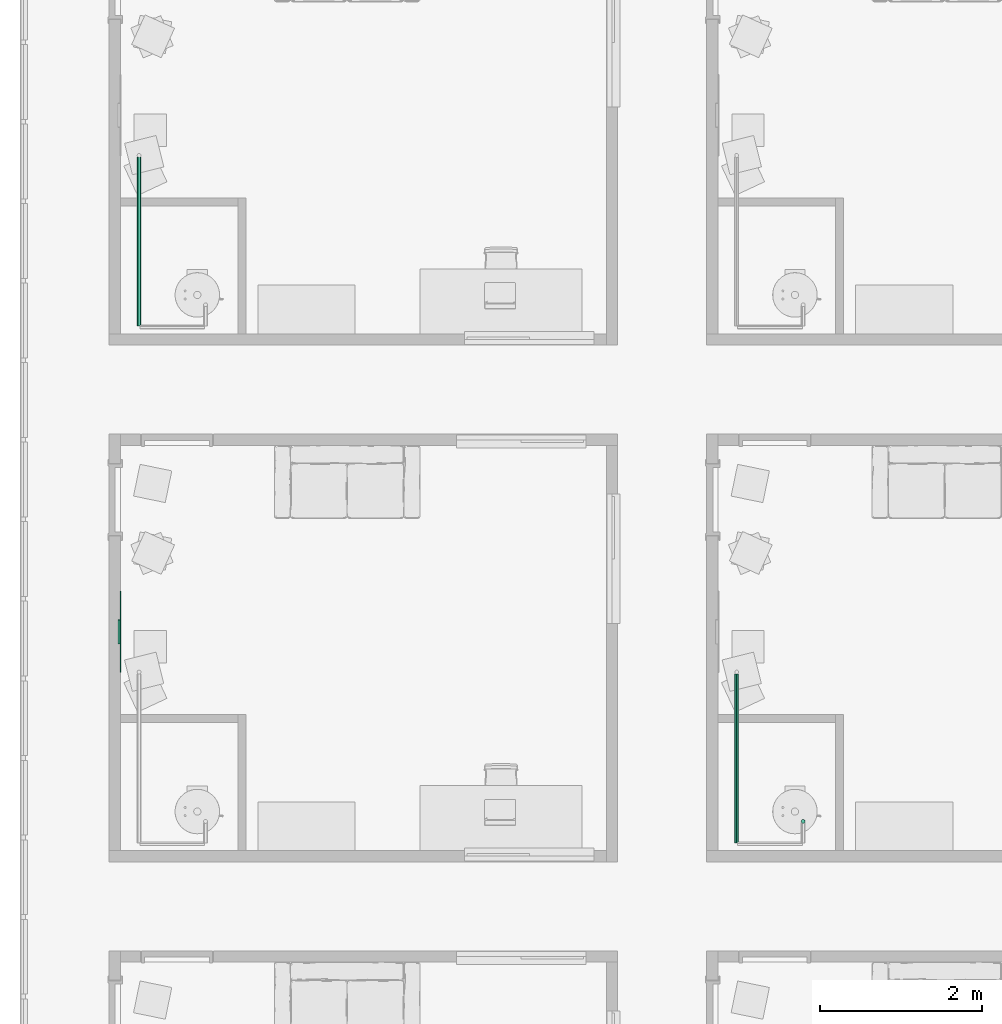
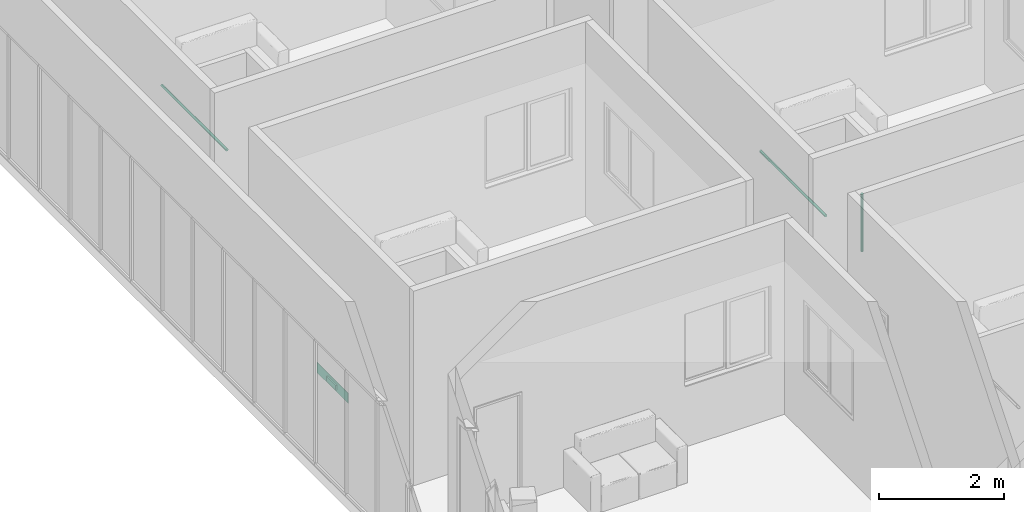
# One storey, part 15 of 69: 3 pipe segments, 1 air terminal.
"""IFC4 building model written with IfcOpenShell, lengths in centimetres."""

from ifc_helpers import new_model, entity, si_unit, converted_unit, derived_unit, direction, frame, origin, place, context, subcontext, project, spatial, arc, indexed_curve, outline, extrude, source, transform, mapped, material, constituent, constituent_set, type_object, type_shapes, element, save


model = new_model("IFC4")

# Units and contexts
model_context = context("Model", 3, precision=0.001, world=origin(), true_north=direction((6.123233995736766e-17, 1.0)))
body_context = subcontext(model_context, "Body", "Model", "MODEL_VIEW")
ifc_project = project(units=[si_unit("LENGTHUNIT", "METRE", prefix="CENTI"), si_unit("AREAUNIT", "SQUARE_METRE"), si_unit("VOLUMEUNIT", "CUBIC_METRE"), derived_unit("THERMALTRANSMITTANCEUNIT", [(si_unit("MASSUNIT", "GRAM", prefix="KILO"), 1), (si_unit("THERMODYNAMICTEMPERATUREUNIT", "KELVIN"), -1), (si_unit("TIMEUNIT", "SECOND"), -3)]), converted_unit("PLANEANGLEUNIT", "DEGREE", entity("IfcPlaneAngleMeasure", 0.017453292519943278), si_unit("PLANEANGLEUNIT", "RADIAN"), dimensions=[0, 0, 0, 0, 0, 0, 0]), derived_unit("MASSDENSITYUNIT", [(si_unit("MASSUNIT", "GRAM", prefix="KILO"), 1), (si_unit("LENGTHUNIT", "METRE"), -3)]), derived_unit("VAPORPERMEABILITYUNIT", [(si_unit("LENGTHUNIT", "METRE"), -1), (si_unit("TIMEUNIT", "SECOND"), 1)]), derived_unit("USERDEFINED", [(si_unit("MASSUNIT", "GRAM", prefix="KILO"), 1), (si_unit("TIMEUNIT", "SECOND"), -3), (si_unit("LENGTHUNIT", "METRE"), 3), (si_unit("ELECTRICCURRENTUNIT", "AMPERE"), -2)]), derived_unit("SPECIFICHEATCAPACITYUNIT", [(si_unit("THERMODYNAMICTEMPERATUREUNIT", "KELVIN"), -1), (si_unit("LENGTHUNIT", "METRE"), 2), (si_unit("TIMEUNIT", "SECOND"), -2)]), derived_unit("THERMALCONDUCTANCEUNIT", [(si_unit("MASSUNIT", "GRAM", prefix="KILO"), 1), (si_unit("THERMODYNAMICTEMPERATUREUNIT", "KELVIN"), -1), (si_unit("TIMEUNIT", "SECOND"), -3), (si_unit("LENGTHUNIT", "METRE"), 1)]), si_unit("PRESSUREUNIT", "PASCAL"), derived_unit("MODULUSOFELASTICITYUNIT", [(si_unit("MASSUNIT", "GRAM", prefix="KILO"), 1), (si_unit("LENGTHUNIT", "METRE"), -1), (si_unit("TIMEUNIT", "SECOND"), -2)]), derived_unit("THERMALEXPANSIONCOEFFICIENTUNIT", [(si_unit("THERMODYNAMICTEMPERATUREUNIT", "KELVIN"), -1)])], contexts=[model_context])

# Site, building, storey, space
site_placement = place(None, origin())
site = spatial("IfcSite", under=ifc_project, at=site_placement, Name="Default", CompositionType="ELEMENT")
building_placement = place(site_placement, origin())
building = spatial("IfcBuilding", under=site, at=building_placement, Name="IDS Escape Game Building", CompositionType="ELEMENT")
storey_placement = place(building_placement, origin())
storey = spatial("IfcBuildingStorey", under=building, at=storey_placement, Name="00_Ground Floor", CompositionType="ELEMENT", Elevation=0.0)
space_placement = place(storey_placement, origin())
space = spatial("IfcSpace", under=storey, at=space_placement, Name="8", CompositionType="ELEMENT", PredefinedType="NOTDEFINED")

# Air terminal
ifc_material_1 = material(Name="TB_LVC_referentievlak_00_gen_BERSnl", Category="BE Default")
ifc_constituent_1 = constituent(ifc_material_1, Name="TB_LVC_referentievlak_00_gen_BERSnl", Category="BE Default", fraction=0.00014157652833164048)
ifc_material_2 = material(Name="ARC_FME.h2_staal_00_gen_BERSnl", Category="h - metaal")
ifc_constituent_2 = constituent(ifc_material_2, Name="ARC_FME.h2_staal_00_gen_BERSnl", Category="h - metaal", fraction=0.9998584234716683)
ifc_constituent_set_1 = constituent_set(constituents=[ifc_constituent_1, ifc_constituent_2])
ifc_constituent_3 = constituent(ifc_material_1, Name="BE Referentievlak", Category="BE Default", fraction=0.00014157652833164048)
ifc_constituent_4 = constituent(ifc_material_2, Name="Terminals", Category="h - metaal", fraction=0.9998584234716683)
ifc_constituent_set_2 = constituent_set(constituents=[ifc_constituent_3, ifc_constituent_4])
air_terminal_type = type_object("IfcAirTerminalType", Name="TB_57_AIR_FB_aanzuigrooster - 1 rechthoekige aansluiting - calculated flow_gen_BERSnl:Air Terminal - Exhaust", PredefinedType="GRILLE", material=ifc_constituent_set_2)
shared_shape = source(origin(), body_context, "Body", "SweptSolid", [
    extrude(outline(indexed_curve([(-0.5, -2.0290176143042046e-15), (6.8507733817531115e-16, -0.5000000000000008), (0.5, 2.0290176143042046e-15), (-5.361679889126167e-16, 0.49999999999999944)], segments=[arc(1, 2, 3), arc(3, 4, 1)], self_intersect=False)), frame((0.0, 0.0, 0.0), z_axis=(1.7453292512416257e-05, 0.0, 1.0), x_axis=(0.0, 1.0, 0.0)), (0.0, 0.0, 1.0), 0.09999999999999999),
    extrude(outline(indexed_curve([(-14.900000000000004, -4.9), (14.900000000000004, -4.9), (14.900000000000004, 4.9), (-14.900000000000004, 4.9), (-14.900000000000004, -4.9)], self_intersect=False)), frame((-4.886921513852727e-05, 0.0, -2.7999999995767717)), (0.0, 0.0, 1.0), 2.7999999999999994),
    extrude(outline(indexed_curve([(-50.0, -10.0), (50.0, -10.0), (50.0, 10.0), (-50.0, 10.0), (-50.0, -10.0)], self_intersect=False)), frame((0.0, 0.0, 0.0), z_axis=(0.0, 0.0, 1.0), x_axis=(-1.0, 0.0, 0.0)), (0.0, 0.0, 1.0), 0.6999999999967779),
])
type_shapes(air_terminal_type, [shared_shape])
air_terminal_placement = place(space_placement, frame((7.0, 921.0, 24.0), z_axis=(1.0, 0.0, 0.0), x_axis=(0.0, 1.0, 0.0)))
element("IfcAirTerminal", 1, at=air_terminal_placement, inside=space, type_object=air_terminal_type, material=ifc_constituent_set_1, Name="TB_57_AIR_FB_aanzuigrooster - 1 rechthoekige aansluiting - calculated flow_gen_BERSnl:Air Terminal - Exhaust", ObjectType="TB_57_AIR_FB_aanzuigrooster - 1 rechthoekige aansluiting - calculated flow_gen_BERSnl:Air Terminal - Exhaust", PredefinedType="GRILLE", context=body_context, shape_type="MappedRepresentation", body=[
    mapped(shared_shape, transform((0.0, 0.0, 0.0), scale=1.0)),
])

# Pipe segments
pipe_segment_type = type_object("IfcPipeSegmentType", Name="Pipe Types:Piping Aluminum", PredefinedType="NOTDEFINED")
pipe_segment_1_placement = place(storey_placement, origin())
element("IfcPipeSegment", 2, at=pipe_segment_1_placement, inside=storey, type_object=pipe_segment_type, Name="Pipe Types:Piping Aluminum", ObjectType="Pipe Types:Piping Aluminum", PredefinedType="NOTDEFINED", context=body_context, shape_type="SweptSolid", body=[
    extrude(outline(indexed_curve([(2.412999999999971, 0.0), (1.7062486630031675, 1.7062486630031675), (0.0, 2.412999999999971), (-1.7062486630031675, 1.7062486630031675), (-2.412999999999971, 0.0), (-1.7062486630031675, -1.7062486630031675), (0.0, -2.412999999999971), (1.7062486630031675, -1.7062486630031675)], segments=[arc(1, 2, 3), arc(3, 4, 5), arc(5, 6, 7), arc(7, 8, 1)], self_intersect=False)), frame((850.1500000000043, 686.9000000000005, 128.0), z_axis=(0.0, 0.0, 1.0), x_axis=(-1.0, 0.0, 0.0)), (0.0, 0.0, 1.0), 112.90000000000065),
])
pipe_segment_2_placement = place(storey_placement, origin())
element("IfcPipeSegment", 3, at=pipe_segment_2_placement, inside=storey, type_object=pipe_segment_type, Name="Pipe Types:Piping Aluminum", ObjectType="Pipe Types:Piping Aluminum", PredefinedType="NOTDEFINED", context=body_context, shape_type="SweptSolid", body=[
    extrude(outline(indexed_curve([(2.412999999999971, 0.0), (1.7062486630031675, 1.7062486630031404), (0.0, 2.412999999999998), (-1.7062486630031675, 1.7062486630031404), (-2.412999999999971, 2.7071678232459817e-14), (-1.7062486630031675, -1.7062486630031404), (0.0, -2.412999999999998), (1.7062486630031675, -1.7062486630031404)], segments=[arc(1, 2, 3), arc(3, 4, 5), arc(5, 6, 7), arc(7, 8, 1)], self_intersect=False)), frame((768.0467168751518, 660.3648279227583, 242.0), z_axis=(0.0, 1.0, 0.0), x_axis=(1.0, 0.0, 0.0)), (0.0, 0.0, 1.0), 208.80000000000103),
])
pipe_segment_3_placement = place(storey_placement, origin())
element("IfcPipeSegment", 4, at=pipe_segment_3_placement, inside=storey, type_object=pipe_segment_type, Name="Pipe Types:Piping Aluminum", ObjectType="Pipe Types:Piping Aluminum", PredefinedType="NOTDEFINED", context=body_context, shape_type="SweptSolid", body=[
    extrude(outline(indexed_curve([(2.4130000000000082, 0.0), (1.7062486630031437, 1.7062486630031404), (-3.383959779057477e-15, 2.412999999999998), (-1.7062486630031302, 1.7062486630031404), (-2.412999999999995, 2.7071678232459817e-14), (-1.7062486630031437, -1.7062486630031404), (-6.767919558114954e-15, -2.412999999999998), (1.706248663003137, -1.7062486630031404)], segments=[arc(1, 2, 3), arc(3, 4, 5), arc(5, 6, 7), arc(7, 8, 1)], self_intersect=False)), frame((30.046716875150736, 1298.3648279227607, 242.0), z_axis=(0.0, 1.0, 0.0), x_axis=(1.0, 0.0, 0.0)), (0.0, 0.0, 1.0), 208.80000000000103),
])

save(model, "model.ifc")
